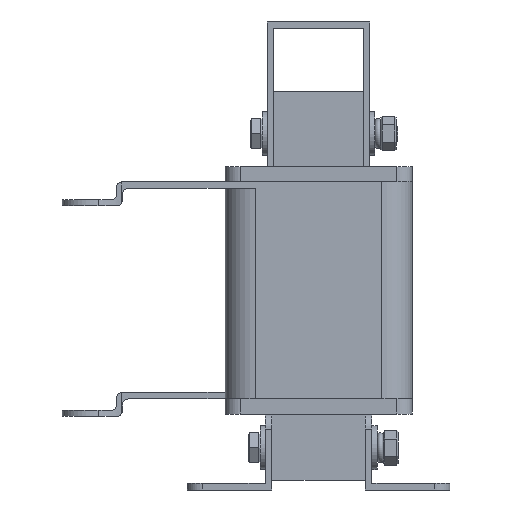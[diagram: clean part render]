
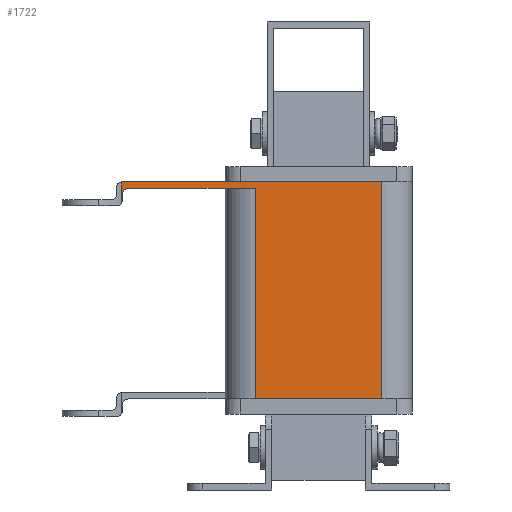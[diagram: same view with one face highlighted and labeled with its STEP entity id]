
A CAD part, left-side view. The second image highlights one B-rep face of the part: STEP entity #1722.
In plain terms, the highlighted planar face has unit normal (-1, 0, 0).
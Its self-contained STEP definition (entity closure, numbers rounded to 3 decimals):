
#1722=ADVANCED_FACE('',(#2236),#2238,.T.);
#2236=FACE_BOUND('',#2237,.T.);
#2237=EDGE_LOOP('',(#3380,#3381,#3382,#3383,#3384,#3385,#3386,#3387,#3388,#3389));
#2238=PLANE('',#2239);
#2239=AXIS2_PLACEMENT_3D('',#2240,#2241,#2242);
#2240=CARTESIAN_POINT('',(-28.,21.,0.));
#2241=DIRECTION('',(-1.,0.,0.));
#2242=DIRECTION('',(0.,-1.,0.));
#3380=ORIENTED_EDGE('',*,*,#4008,.F.);
#3381=ORIENTED_EDGE('',*,*,#4009,.T.);
#3382=ORIENTED_EDGE('',*,*,#4010,.F.);
#3383=ORIENTED_EDGE('',*,*,#4011,.F.);
#3384=ORIENTED_EDGE('',*,*,#4012,.F.);
#3385=ORIENTED_EDGE('',*,*,#4013,.T.);
#3386=ORIENTED_EDGE('',*,*,#4014,.T.);
#3387=ORIENTED_EDGE('',*,*,#4015,.T.);
#3388=ORIENTED_EDGE('',*,*,#4016,.F.);
#3389=ORIENTED_EDGE('',*,*,#4017,.F.);
#4008=EDGE_CURVE('',#4491,#4492,#4493,.F.);
#4009=EDGE_CURVE('',#4491,#4494,#4495,.T.);
#4010=EDGE_CURVE('',#4496,#4494,#4497,.F.);
#4011=EDGE_CURVE('',#4498,#4496,#4499,.T.);
#4012=EDGE_CURVE('',#4500,#4498,#4501,.T.);
#4013=EDGE_CURVE('',#4500,#4502,#4503,.T.);
#4014=EDGE_CURVE('',#4502,#4504,#4505,.T.);
#4015=EDGE_CURVE('',#4504,#4506,#4507,.T.);
#4016=EDGE_CURVE('',#4508,#4506,#4509,.F.);
#4017=EDGE_CURVE('',#4492,#4508,#4510,.T.);
#4491=VERTEX_POINT('',#5455);
#4492=VERTEX_POINT('',#5456);
#4493=CIRCLE('',#5457,2.);
#4494=VERTEX_POINT('',#5461);
#4495=LINE('',#5462,#5463);
#4496=VERTEX_POINT('',#5465);
#4497=CIRCLE('',#5466,2.);
#4498=VERTEX_POINT('',#5470);
#4499=LINE('',#5471,#5472);
#4500=VERTEX_POINT('',#5474);
#4501=LINE('',#5475,#5476);
#4502=VERTEX_POINT('',#5478);
#4503=LINE('',#5479,#5480);
#4504=VERTEX_POINT('',#5482);
#4505=LINE('',#5483,#5484);
#4506=VERTEX_POINT('',#5486);
#4507=LINE('',#5487,#5488);
#4508=VERTEX_POINT('',#5490);
#4509=CIRCLE('',#5491,2.);
#4510=LINE('',#5495,#5496);
#5455=CARTESIAN_POINT('',(-28.,65.,66.));
#5456=CARTESIAN_POINT('',(-28.,65.381,64.826));
#5457=AXIS2_PLACEMENT_3D('',#5458,#5459,#5460);
#5458=CARTESIAN_POINT('',(-28.,67.,66.));
#5459=DIRECTION('',(-1.,0.,0.));
#5460=DIRECTION('',(0.,-0.809,-0.587));
#5461=CARTESIAN_POINT('',(-28.,65.,67.8));
#5462=CARTESIAN_POINT('',(-28.,65.,66.));
#5463=VECTOR('',#5464,1.);
#5464=DIRECTION('',(0.,0.,1.));
#5465=CARTESIAN_POINT('',(-28.,63.,69.8));
#5466=AXIS2_PLACEMENT_3D('',#5467,#5468,#5469);
#5467=CARTESIAN_POINT('',(-28.,63.,67.8));
#5468=DIRECTION('',(1.,0.,0.));
#5469=DIRECTION('',(0.,1.,0.));
#5470=CARTESIAN_POINT('',(-28.,21.,69.8));
#5471=CARTESIAN_POINT('',(-28.,21.,69.8));
#5472=VECTOR('',#5473,1.);
#5473=DIRECTION('',(0.,1.,0.));
#5474=CARTESIAN_POINT('',(-28.,21.,0.));
#5475=CARTESIAN_POINT('',(-28.,21.,0.));
#5476=VECTOR('',#5477,1.);
#5477=DIRECTION('',(0.,0.,1.));
#5478=CARTESIAN_POINT('',(-28.,-21.,0.));
#5479=CARTESIAN_POINT('',(-28.,21.,0.));
#5480=VECTOR('',#5481,1.);
#5481=DIRECTION('',(0.,-1.,0.));
#5482=CARTESIAN_POINT('',(-28.,-21.,72.));
#5483=CARTESIAN_POINT('',(-28.,-21.,0.));
#5484=VECTOR('',#5485,1.);
#5485=DIRECTION('',(0.,0.,1.));
#5486=CARTESIAN_POINT('',(-28.,65.,72.));
#5487=CARTESIAN_POINT('',(-28.,-21.,72.));
#5488=VECTOR('',#5489,1.);
#5489=DIRECTION('',(0.,1.,0.));
#5490=CARTESIAN_POINT('',(-28.,65.381,71.963));
#5491=AXIS2_PLACEMENT_3D('',#5492,#5493,#5494);
#5492=CARTESIAN_POINT('',(-28.,65.,70.));
#5493=DIRECTION('',(-1.,0.,0.));
#5494=DIRECTION('',(0.,0.,1.));
#5495=CARTESIAN_POINT('',(-28.,65.381,64.826));
#5496=VECTOR('',#5497,1.);
#5497=DIRECTION('',(0.,0.,1.));
